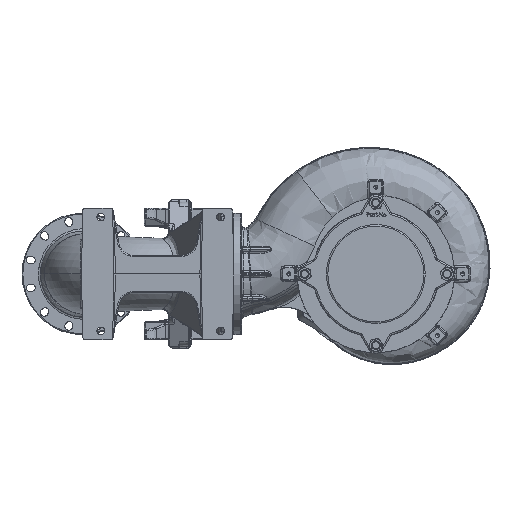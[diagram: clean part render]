
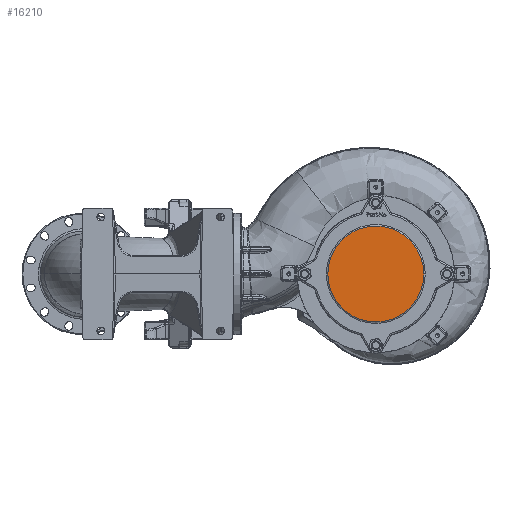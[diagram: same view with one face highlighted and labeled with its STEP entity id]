
A CAD part, front view. The second image highlights one B-rep face of the part: STEP entity #16210.
In plain terms, the highlighted planar face has unit normal (0, -1, 0).
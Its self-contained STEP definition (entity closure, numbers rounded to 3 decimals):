
#16210 = ADVANCED_FACE ( 'NONE', ( #314772 ), #282796, .T. ) ;
#42782 = AXIS2_PLACEMENT_3D ( 'NONE', #105172, #305959, #134124 ) ;
#50725 = CARTESIAN_POINT ( 'NONE',  ( 480., 0., -0.003 ) ) ;
#54463 = DIRECTION ( 'NONE',  ( 0., -1., 0. ) ) ;
#62021 = AXIS2_PLACEMENT_3D ( 'NONE', #226291, #54463, #255149 ) ;
#79477 = DIRECTION ( 'NONE',  ( -1., 0., 0. ) ) ;
#81634 = ORIENTED_EDGE ( 'NONE', *, *, #367347, .F. ) ;
#105172 = CARTESIAN_POINT ( 'NONE',  ( 480., 0., -0.003 ) ) ;
#106693 = CARTESIAN_POINT ( 'NONE',  ( 320., 0., -0.003 ) ) ;
#134124 = DIRECTION ( 'NONE',  ( -1., 0., 0. ) ) ;
#172299 = ORIENTED_EDGE ( 'NONE', *, *, #325162, .F. ) ;
#172325 = CARTESIAN_POINT ( 'NONE',  ( 640., 0., -0.003 ) ) ;
#179239 = CIRCLE ( 'NONE', #317230, 160. ) ;
#226291 = CARTESIAN_POINT ( 'NONE',  ( 480., 0., 124.997 ) ) ;
#251463 = DIRECTION ( 'NONE',  ( 0., 1., 0. ) ) ;
#255149 = DIRECTION ( 'NONE',  ( 1., 0., 0. ) ) ;
#280489 = EDGE_LOOP ( 'NONE', ( #172299, #81634 ) ) ;
#282796 = PLANE ( 'NONE',  #62021 ) ;
#305959 = DIRECTION ( 'NONE',  ( 0., 1., 0. ) ) ;
#314772 = FACE_OUTER_BOUND ( 'NONE', #280489, .T. ) ;
#317230 = AXIS2_PLACEMENT_3D ( 'NONE', #50725, #251463, #79477 ) ;
#325162 = EDGE_CURVE ( 'NONE', #345641, #364182, #354966, .T. ) ;
#345641 = VERTEX_POINT ( 'NONE', #172325 ) ;
#354966 = CIRCLE ( 'NONE', #42782, 160. ) ;
#364182 = VERTEX_POINT ( 'NONE', #106693 ) ;
#367347 = EDGE_CURVE ( 'NONE', #364182, #345641, #179239, .T. ) ;
